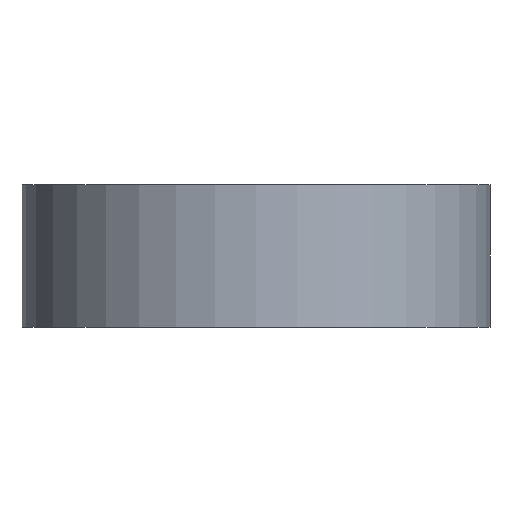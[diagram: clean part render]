
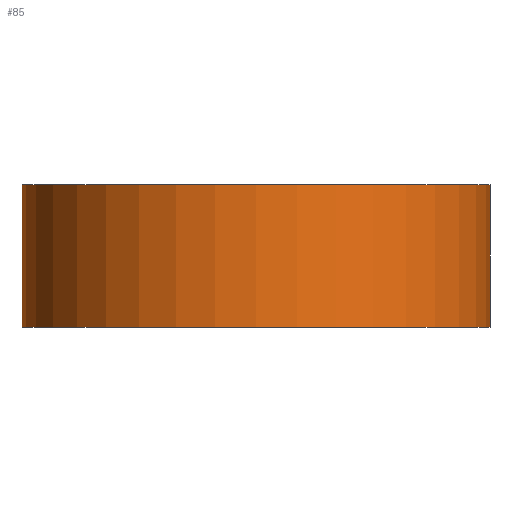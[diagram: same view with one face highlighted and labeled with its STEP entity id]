
A CAD part, front view. The second image highlights one B-rep face of the part: STEP entity #85.
In plain terms, the highlighted cylindrical face has radius 41 mm (diameter 82 mm), a full revolution.
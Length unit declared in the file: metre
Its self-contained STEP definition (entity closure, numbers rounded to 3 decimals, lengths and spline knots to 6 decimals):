
#85 = ADVANCED_FACE( '', ( #174, #175 ), #176, .T. );
#174 = FACE_OUTER_BOUND( '', #265, .T. );
#175 = FACE_OUTER_BOUND( '', #266, .T. );
#176 = CYLINDRICAL_SURFACE( '', #267, 0.041 );
#265 = EDGE_LOOP( '', ( #455 ) );
#266 = EDGE_LOOP( '', ( #456 ) );
#267 = AXIS2_PLACEMENT_3D( '', #457, #458, #459 );
#455 = ORIENTED_EDGE( '', *, *, #564, .F. );
#456 = ORIENTED_EDGE( '', *, *, #633, .T. );
#457 = CARTESIAN_POINT( '', ( 0., 0., 0.025 ) );
#458 = DIRECTION( '', ( 0., 0., 1. ) );
#459 = DIRECTION( '', ( -1., 0., 0. ) );
#564 = EDGE_CURVE( '', #673, #673, #674, .T. );
#633 = EDGE_CURVE( '', #780, #780, #781, .T. );
#673 = VERTEX_POINT( '', #830 );
#674 = CIRCLE( '', #831, 0.041 );
#780 = VERTEX_POINT( '', #979 );
#781 = CIRCLE( '', #980, 0.041 );
#830 = CARTESIAN_POINT( '', ( 0.041, 0., 0.025 ) );
#831 = AXIS2_PLACEMENT_3D( '', #1024, #1025, #1026 );
#979 = CARTESIAN_POINT( '', ( 0.041, 0., 0. ) );
#980 = AXIS2_PLACEMENT_3D( '', #1102, #1103, #1104 );
#1024 = CARTESIAN_POINT( '', ( 0., 0., 0.025 ) );
#1025 = DIRECTION( '', ( 0., 0., 1. ) );
#1026 = DIRECTION( '', ( 1., 0., 0. ) );
#1102 = CARTESIAN_POINT( '', ( 0., 0., 0. ) );
#1103 = DIRECTION( '', ( 0., 0., 1. ) );
#1104 = DIRECTION( '', ( 1., 0., 0. ) );
